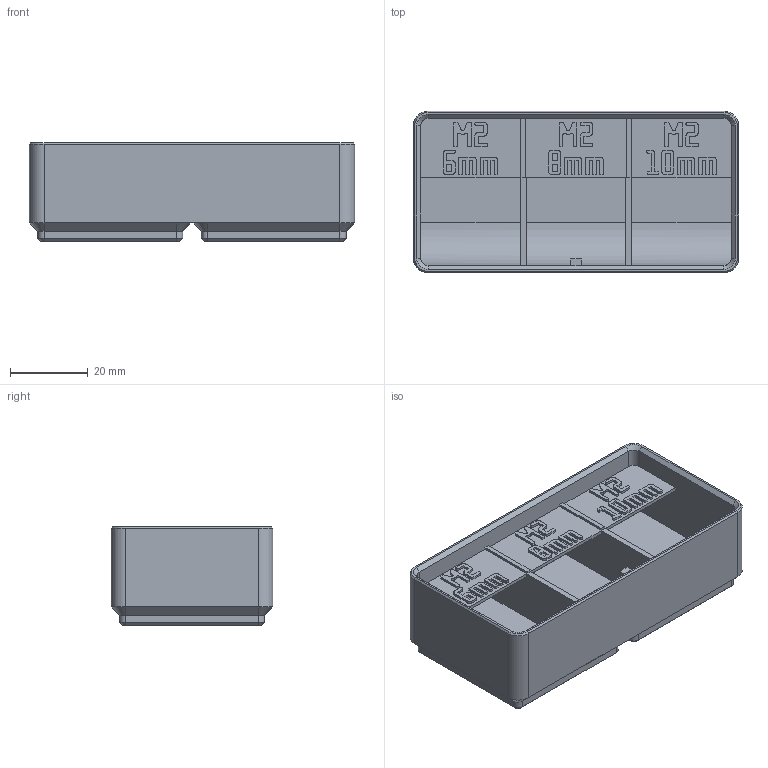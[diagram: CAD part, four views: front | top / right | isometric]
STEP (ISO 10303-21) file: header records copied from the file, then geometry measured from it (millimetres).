
FILE_DESCRIPTION(('Open CASCADE Model'),'2;1');
FILE_NAME('Open CASCADE Shape Model','2026-11-03T16:31:12',('Author'),( 'Open CASCADE'),'Open CASCADE STEP processor 8.0','build123d', 'Unknown');
FILE_SCHEMA(('AUTOMOTIVE_DESIGN { 1 0 10303 214 1 1 1 1 }'));
Products named in the file (1): COMPOUND
Bounding box: 83.5 x 41.5 x 25.4 mm (x, y, z)
Volume: 39248.8 mm3; surface area: 19679.7 mm2
Topology: 1 solids, 1 shells, 1675 faces, 4894 edges, 3242 vertices
Faces by surface type: plane 1632, cone 24, cylinder 19
Entity records: 114886 total; most frequent: CARTESIAN_POINT 23188, DIRECTION 14802, LINE 11316, VECTOR 11316, ORIENTED_EDGE 9788, PCURVE 9788, DEFINITIONAL_REPRESENTATION 9788, EDGE_CURVE 4894
